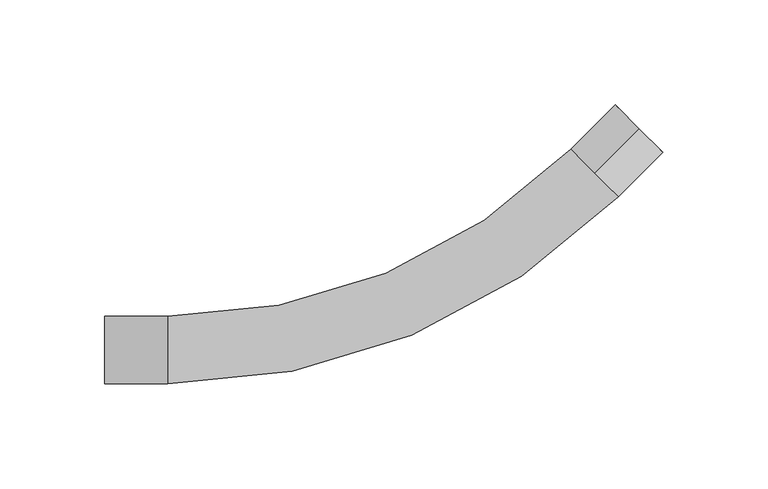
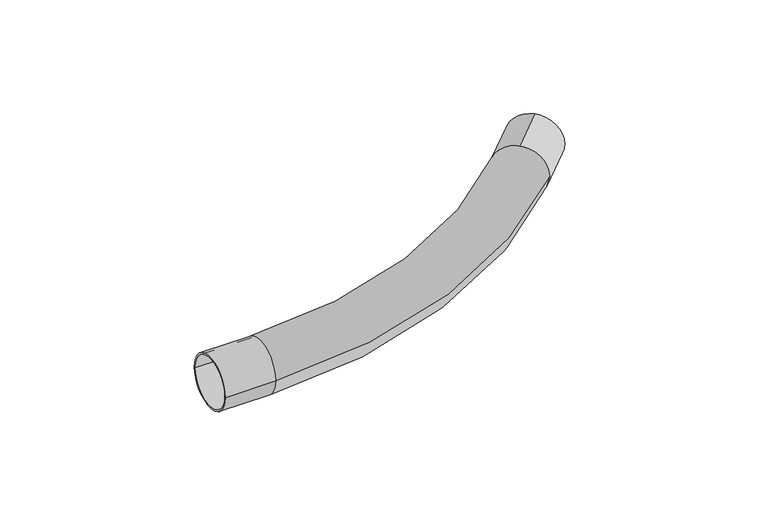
"""IFC4 building model written with IfcOpenShell, lengths in millimetres: cable carrier fitting geometry, КНС_МуфтаГибкаяТрубаТруба_IP65_DKC : Коробка."""

import ifcopenshell
import ifcopenshell.guid

model = None  # the IFC model being written
_history = None  # IfcOwnerHistory: only IFC2X3 demands one
_inside = {}  # id of a spatial element -> (the spatial element, [elements in it])
_under = {}  # id of a project, library or spatial element -> (it, [spatial elements below it])
_declared = {}  # id of a project -> (the project, [libraries it declares])
_typed = {}  # id of a type object -> (the type object, [elements of that type])
_made_of = {}  # id of a material, layer set ... -> (it, [elements and type objects made of it])


def new_model(schema):
    """Start an empty IFC model of exactly this schema.

    Asked for "IFC4X3", IfcOpenShell would pick the latest addendum, in which some entities
    have other attributes; the version numbers below select the first issue.
    IFC2X3 requires an IfcOwnerHistory on every rooted entity: one is made here for all.
    """
    global model, _history
    if schema == "IFC4X3":
        model = ifcopenshell.file(schema_version=(4, 3, 0, 0))
    else:
        model = ifcopenshell.file(schema=schema)
    _inside.clear()
    _under.clear()
    _declared.clear()
    _typed.clear()
    _made_of.clear()
    _history = None
    if model.schema == "IFC2X3":
        org = make("IfcOrganization", Name="unknown")
        user = make(
            "IfcPersonAndOrganization",
            ThePerson=make("IfcPerson", FamilyName="unknown"),
            TheOrganization=org,
        )
        app = make(
            "IfcApplication",
            ApplicationDeveloper=org,
            Version="unknown",
            ApplicationFullName="unknown",
            ApplicationIdentifier="unknown",
        )
        _history = make(
            "IfcOwnerHistory",
            OwningUser=user,
            OwningApplication=app,
            ChangeAction="ADDED",
            CreationDate=0,
        )
    return model


def make(cls, **values):
    """One entity of the class cls with the attributes given. An attribute that is None is left unset."""
    return model.create_entity(
        cls, **{name: value for name, value in values.items() if value is not None}
    )


def rooted(cls, **values):
    """An entity with a GlobalId (a new one), such as an element, a storey or a relation."""
    return make(cls, GlobalId=ifcopenshell.guid.new(), OwnerHistory=_history, **values)


def si_unit(unit_type, name, prefix=None):
    """IfcSIUnit, for example si_unit("LENGTHUNIT", "METRE", prefix="MILLI")."""
    return make("IfcSIUnit", UnitType=unit_type, Prefix=prefix, Name=name)


def assignment(units):
    """IfcUnitAssignment: the units of a project."""
    return None if units is None else make("IfcUnitAssignment", Units=units)


def point(xyz):
    """IfcCartesianPoint."""
    return None if xyz is None else make("IfcCartesianPoint", Coordinates=xyz)


def direction(xyz):
    """IfcDirection."""
    return None if xyz is None else make("IfcDirection", DirectionRatios=xyz)


def frame(location, z_axis=None, x_axis=None):
    """IfcAxis2Placement3D, a coordinate frame: its origin and axes. An axis left out is left unset."""
    return make(
        "IfcAxis2Placement3D",
        Location=point(location),
        Axis=direction(z_axis),
        RefDirection=direction(x_axis),
    )


def origin():
    """The frame at (0, 0, 0) with its axes left unset."""
    return frame((0.0, 0.0, 0.0))


def place(relative_to, where):
    """IfcLocalPlacement: puts the frame where relative to a parent placement (None: the world)."""
    return make(
        "IfcLocalPlacement", PlacementRelTo=relative_to, RelativePlacement=where
    )


def context(
    kind, dimensions, precision=None, world=None, true_north=None, identifier=None
):
    """IfcGeometricRepresentationContext, for example the 3D "Model" context."""
    return make(
        "IfcGeometricRepresentationContext",
        ContextIdentifier=identifier,
        ContextType=kind,
        CoordinateSpaceDimension=dimensions,
        Precision=precision,
        WorldCoordinateSystem=world,
        TrueNorth=true_north,
    )


def project(units=None, contexts=None):
    """IfcProject with its units and contexts."""
    return rooted(
        "IfcProject",
        Name="project",
        RepresentationContexts=contexts,
        UnitsInContext=assignment(units),
    )


def spatial(cls, under=None, at=None, **own):
    """A site, building, storey or space (cls), placed at a placement, below another one or the project."""
    s = rooted(cls, ObjectPlacement=at, **own)
    if under is not None:
        _under.setdefault(under.id(), (under, []))[1].append(s)
    return s


def polyline(points):
    """IfcPolyline through the points."""
    return make("IfcPolyline", Points=[point(p) for p in points])


def circle_curve(where, radius):
    """IfcCircle in the frame where."""
    return make("IfcCircle", Position=where, Radius=radius)


def ellipse_curve(where, semi_axis1, semi_axis2):
    """IfcEllipse in the frame where."""
    return make(
        "IfcEllipse", Position=where, SemiAxis1=semi_axis1, SemiAxis2=semi_axis2
    )


def trimmed(basis, trim1, trim2, sense, master):
    """IfcTrimmedCurve: the piece of a basis curve between two trims."""
    return make(
        "IfcTrimmedCurve",
        BasisCurve=basis,
        Trim1=trim1,
        Trim2=trim2,
        SenseAgreement=sense,
        MasterRepresentation=master,
    )


def shape(context_of_items, identifier, shape_type, items):
    """IfcShapeRepresentation: the items that make up one representation, for example the "Body"."""
    return make(
        "IfcShapeRepresentation",
        ContextOfItems=context_of_items,
        RepresentationIdentifier=identifier,
        RepresentationType=shape_type,
        Items=items,
    )


def source(mapping_origin, context_of_items, identifier, shape_type, items):
    """IfcRepresentationMap: a shape defined once, which mapped items show again and again."""
    return make(
        "IfcRepresentationMap",
        MappingOrigin=mapping_origin,
        MappedRepresentation=shape(context_of_items, identifier, shape_type, items),
    )


def transform(
    local_origin,
    x_axis=None,
    y_axis=None,
    z_axis=None,
    scale=None,
    scale2=None,
    scale3=None,
    uniform=True,
):
    """IfcCartesianTransformationOperator3D, or its non-uniform kind. x_axis, y_axis, z_axis: its Axis1, 2, 3."""
    if uniform:
        return make(
            "IfcCartesianTransformationOperator3D",
            Axis1=direction(x_axis),
            Axis2=direction(y_axis),
            LocalOrigin=point(local_origin),
            Scale=scale,
            Axis3=direction(z_axis),
        )
    return make(
        "IfcCartesianTransformationOperator3DnonUniform",
        Axis1=direction(x_axis),
        Axis2=direction(y_axis),
        LocalOrigin=point(local_origin),
        Scale=scale,
        Axis3=direction(z_axis),
        Scale2=scale2,
        Scale3=scale3,
    )


def mapped(mapping_source, mapping_target):
    """IfcMappedItem: shows the shape of a source again, moved by a transform."""
    return make(
        "IfcMappedItem", MappingSource=mapping_source, MappingTarget=mapping_target
    )


def made_of(thing, what):
    """Note that an element or type object is made of a material, layer set ...; save() writes the relation."""
    if what is not None:
        _made_of.setdefault(what.id(), (what, []))[1].append(thing)
    return thing


def element(
    cls,
    number,
    at=None,
    inside=None,
    cuts=None,
    type_object=None,
    material=None,
    context=None,
    identifier="Body",
    shape_type=None,
    held_by="IfcProductDefinitionShape",
    body=None,
    shapes=None,
    **own,
):
    """One element of the class cls, such as IfcWall. Its Tag is "e" and its number.

    at: its placement. inside: the storey or other place that contains it. cuts: it is an
    opening in that element (IfcRelVoidsElement). A single representation is given by context,
    identifier, shape_type and body (its items); several are given by shapes. held_by: the class
    of the entity that holds the representations. save() writes the other relations.
    """
    e = rooted(cls, Tag="e%d" % number, ObjectPlacement=at, **own)
    if body is not None:
        shapes = [shape(context, identifier, shape_type, body)]
    if shapes is not None:
        e.Representation = make(held_by, Representations=shapes)
    if inside is not None:
        _inside.setdefault(inside.id(), (inside, []))[1].append(e)
    if cuts is not None:
        rooted(
            "IfcRelVoidsElement", RelatingBuildingElement=cuts, RelatedOpeningElement=e
        )
    if type_object is not None:
        _typed.setdefault(type_object.id(), (type_object, []))[1].append(e)
    return made_of(e, material)


def aggregate(whole, parts):
    """IfcRelAggregates: a whole, such as a stair, and the parts it consists of."""
    return rooted("IfcRelAggregates", RelatingObject=whole, RelatedObjects=parts)


def save(model, path):
    """Write the relations noted so far, then the file.

    IfcRelAggregates (storeys below a building ...), IfcRelContainedInSpatialStructure (elements
    in a storey), IfcRelDefinesByType, IfcRelAssociatesMaterial and IfcRelDeclares: one each for
    every whole, place, type object, material and project.
    """
    for whole, parts in _under.values():
        aggregate(whole, parts)
    for where, things in _inside.values():
        rooted(
            "IfcRelContainedInSpatialStructure",
            RelatedElements=things,
            RelatingStructure=where,
        )
    for kind, things in _typed.values():
        rooted("IfcRelDefinesByType", RelatedObjects=things, RelatingType=kind)
    for what, things in _made_of.values():
        rooted("IfcRelAssociatesMaterial", RelatedObjects=things, RelatingMaterial=what)
    for by, libraries in _declared.values():
        rooted("IfcRelDeclares", RelatingContext=by, RelatedDefinitions=libraries)
    model.write(path)


def plane_surface(at):
    """IfcPlane: the flat surface through the origin of the frame at, square to its z axis."""
    return make("IfcPlane", Position=at)


def cylinder_surface(at, radius):
    """IfcCylindricalSurface: all points at the distance radius from the z axis of the frame at."""
    return make("IfcCylindricalSurface", Position=at, Radius=radius)


def revolved_surface(curve, axis_point, axis_direction):
    """IfcSurfaceOfRevolution: the curve turned about the line through axis_point along axis_direction."""
    return make(
        "IfcSurfaceOfRevolution",
        SweptCurve=make("IfcArbitraryOpenProfileDef", ProfileType="CURVE", Curve=curve),
        AxisPosition=make("IfcAxis1Placement", Location=point(axis_point), Axis=direction(axis_direction)),
    )


def advanced_brep(points, edges, surfaces, faces):
    """IfcAdvancedBrep: a solid bounded by faces that lie on surfaces and meet in shared edges.

    An edge is (start, end): straight between two places in points (the first is 0);
    or (start, end, curve); or (start, end, curve, False) where it runs against its curve.
    A face is (place in surfaces, loops), or (place, loops, False) where it looks against
    its surface's normal. A loop lists edges by number (the first is 1), with a minus sign
    where the edge is run from its end to its start. The first loop is the outer one.
    """
    corners = [point(p) for p in points]
    vertices = [make("IfcVertexPoint", VertexGeometry=c) for c in corners]
    made = []
    for start, end, *more in edges:
        made.append(
            make(
                "IfcEdgeCurve",
                EdgeStart=vertices[start],
                EdgeEnd=vertices[end],
                EdgeGeometry=more[0] if more else make("IfcPolyline", Points=[corners[start], corners[end]]),
                SameSense=more[1] if len(more) > 1 else True,
            )
        )
    hull = []
    for where, loops, *sense in faces:
        bounds = []
        for j, loop in enumerate(loops):
            ring = [make("IfcOrientedEdge", EdgeElement=made[abs(k) - 1], Orientation=k > 0) for k in loop]
            bounds.append(
                make(
                    "IfcFaceOuterBound" if j == 0 else "IfcFaceBound",
                    Bound=make("IfcEdgeLoop", EdgeList=ring),
                    Orientation=True,
                )
            )
        hull.append(make("IfcAdvancedFace", Bounds=bounds, FaceSurface=surfaces[where], SameSense=sense[0] if sense else True))
    return make("IfcAdvancedBrep", Outer=make("IfcClosedShell", CfsFaces=hull))


def cable_carrier_fitting_863328d7(model_context):
    return source(origin(), model_context, "Body", "AdvancedBrep", [
        advanced_brep(
        [(-149.1908378, -16.0, 0.0), (-149.1908378, 16.0, 0.0), (-149.1908378, -15.0, 0.0), (-149.1908378, 15.0, 0.0), (-119.1908378, -16.0, 0.0), (-119.1908378, 16.0, 0.0), (-119.1908378, -15.0, 0.0), (-119.1908378, 15.0, 0.0), (84.2806497, 84.2806497, 15.0), (84.2806497, 84.2806497, -15.0), (95.5943582, 72.9669412, 0.0), (84.2806497, 84.2806497, 16.0), (72.9669412, 95.5943582, 0.0), (84.2806497, 84.2806497, -16.0), (105.4938531, 105.4938531, -16.0), (105.4938531, 105.4938531, 16.0), (105.4938531, 105.4938531, -15.0), (105.4938531, 105.4938531, 15.0)],
        [
            (0, 1, circle_curve(frame((-149.1908378, 0.0, 0.0), z_axis=(-1.0, 0.0, 0.0), x_axis=(0.0, 1.0, 0.0)), 16.0)),
            (1, 0, circle_curve(frame((-149.1908378, 0.0, 0.0), z_axis=(-1.0, 0.0, 0.0), x_axis=(0.0, 1.0, 0.0)), 16.0)),
            (2, 3, circle_curve(frame((-149.1908378, 0.0, 0.0), z_axis=(1.0, 0.0, 0.0), x_axis=(0.0, 1.0, 0.0)), 15.0)),
            (3, 2, circle_curve(frame((-149.1908378, 0.0, 0.0), z_axis=(1.0, 0.0, 0.0), x_axis=(0.0, 1.0, 0.0)), 15.0)),
            (0, 4),
            (4, 5, circle_curve(frame((-119.1908378, 0.0, 0.0), z_axis=(-1.0, 0.0, 0.0), x_axis=(0.0, 1.0, 0.0)), 16.0)),
            (5, 1),
            (5, 4, circle_curve(frame((-119.1908378, 0.0, 0.0), z_axis=(-1.0, 0.0, 0.0), x_axis=(0.0, 1.0, 0.0)), 16.0)),
            (2, 6),
            (6, 7, circle_curve(frame((-119.1908378, 0.0, 0.0), z_axis=(1.0, 0.0, 0.0), x_axis=(0.0, 1.0, 0.0)), 15.0)),
            (7, 3),
            (7, 6, circle_curve(frame((-119.1908378, 0.0, 0.0), z_axis=(1.0, 0.0, 0.0), x_axis=(0.0, 1.0, 0.0)), 15.0)),
            (8, 9, circle_curve(frame((84.2806497, 84.2806497, 0.0), z_axis=(0.7071067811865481, 0.707106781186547, 0.0), x_axis=(0.0, 0.0, 1.0)), 15.0)),
            (9, 8, circle_curve(frame((84.2806497, 84.2806497, 0.0), z_axis=(0.7071067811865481, 0.707106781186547, 0.0), x_axis=(0.0, 0.0, 1.0)), 15.0)),
            (4, 10, circle_curve(frame((-119.1908378, 287.7521371, 0.0), z_axis=(0.0, 0.0, 1.0), x_axis=(0.7071067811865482, -0.7071067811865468, 0.0)), 303.7521371)),
            (10, 11, circle_curve(frame((84.2806497, 84.2806497, 0.0), z_axis=(-0.7071067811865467, -0.7071067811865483, 0.0), x_axis=(0.7071067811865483, -0.7071067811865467, 0.0)), 16.0)),
            (11, 12, circle_curve(frame((84.2806497, 84.2806497, 0.0), z_axis=(-0.7071067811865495, -0.7071067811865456, 0.0), x_axis=(0.7071067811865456, -0.7071067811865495, 0.0)), 16.0)),
            (12, 5, circle_curve(frame((-119.1908378, 287.7521371, 0.0), z_axis=(0.0, 0.0, -1.0), x_axis=(0.7071067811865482, -0.7071067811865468, 0.0)), 271.7521371)),
            (12, 13, circle_curve(frame((84.2806497, 84.2806497, 0.0), z_axis=(-0.7071067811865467, -0.7071067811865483, 0.0), x_axis=(0.7071067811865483, -0.7071067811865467, 0.0)), 16.0)),
            (13, 10, circle_curve(frame((84.2806497, 84.2806497, 0.0), z_axis=(-0.7071067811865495, -0.7071067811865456, 0.0), x_axis=(0.7071067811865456, -0.7071067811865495, 0.0)), 16.0)),
            (14, 15, circle_curve(frame((105.4938531, 105.4938531, 0.0), z_axis=(0.7071067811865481, 0.707106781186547, 0.0), x_axis=(0.0, 0.0, 1.0)), 16.0)),
            (15, 14, circle_curve(frame((105.4938531, 105.4938531, 0.0), z_axis=(0.7071067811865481, 0.707106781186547, 0.0), x_axis=(0.0, 0.0, 1.0)), 16.0)),
            (16, 17, circle_curve(frame((105.4938531, 105.4938531, 0.0), z_axis=(-0.7071067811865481, -0.707106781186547, 0.0), x_axis=(0.0, 0.0, 1.0)), 15.0)),
            (17, 16, circle_curve(frame((105.4938531, 105.4938531, 0.0), z_axis=(-0.7071067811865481, -0.707106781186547, 0.0), x_axis=(0.0, 0.0, 1.0)), 15.0)),
            (14, 13),
            (11, 15),
            (16, 9),
            (8, 17),
        ],
        [
            plane_surface(frame((-149.1908378, 0.0, 0.0), z_axis=(-1.0, 0.0, 0.0), x_axis=(0.0, 0.0, 1.0))),
            cylinder_surface(frame((-149.1908378, 0.0, 0.0), z_axis=(-1.0, 0.0, 0.0), x_axis=(0.0, 1.0, 0.0)), 16.0),
            revolved_surface(polyline([(-119.1908378, 15.0, 0.0), (-149.1908378, 15.0, 0.0)]), (-149.1908378, 0.0, 0.0), (1.0, 0.0, 0.0)),
            plane_surface(frame((84.2806497, 84.2806497, 0.0), z_axis=(0.7071067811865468, 0.7071067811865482, 0.0), x_axis=(0.0, 0.0, 1.0))),
            plane_surface(frame((-119.1908378, 0.0, 0.0), z_axis=(-1.0, 0.0, 0.0), x_axis=(0.0, 0.0, 1.0))),
            revolved_surface(trimmed(ellipse_curve(frame((84.2806497, 84.2806497, 0.0), z_axis=(0.7071067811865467, 0.7071067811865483, 0.0), x_axis=(0.7071067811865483, -0.7071067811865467, 0.0)), 16.0, 16.0), [point((72.9669412, 95.5943582, 0.0))], [point((95.5943582, 72.9669412, 0.0))], True, "CARTESIAN"), (-119.1908378, 287.7521371, 0.0), (0.0, 0.0, -1.0)),
            revolved_surface(trimmed(ellipse_curve(frame((84.2806497, 84.2806497, 0.0), z_axis=(0.7071067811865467, 0.7071067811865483, 0.0), x_axis=(0.7071067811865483, -0.7071067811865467, 0.0)), 16.0, 16.0), [point((95.5943582, 72.9669412, 0.0))], [point((72.9669412, 95.5943582, 0.0))], True, "CARTESIAN"), (-119.1908378, 287.7521371, 0.0), (0.0, 0.0, -1.0)),
            plane_surface(frame((105.4938531, 105.4938531, 16.0), z_axis=(0.7071067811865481, 0.7071067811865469, 0.0), x_axis=(0.7071067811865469, -0.7071067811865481, 0.0))),
            cylinder_surface(frame((84.2806497, 84.2806497, 0.0), z_axis=(0.7071067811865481, 0.707106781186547, 0.0), x_axis=(0.0, 0.0, 1.0)), 16.0),
            revolved_surface(polyline([(84.2806497, 84.2806497, 15.0), (105.49385310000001, 105.49385309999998, 15.0)]), (84.2806497, 84.2806497, 0.0), (-0.7071067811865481, -0.707106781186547, 0.0)),
        ],
        [
            (0, [[1, 2], [3, 4]]),
            (1, [[-1, 5, 6, 7]]),
            (1, [[-2, -7, 8, -5]]),
            (2, [[-3, 9, 10, 11]]),
            (2, [[-4, -11, 12, -9]]),
            (3, [[13, 14]]),
            (4, [[-10, -12]]),
            (5, [[15, 16, 17, 18, -6]]),
            (6, [[-15, -8, -18, 19, 20]]),
            (7, [[21, 22], [23, 24]]),
            (8, [[-21, 25, -19, -17, 26]]),
            (8, [[-22, -26, -16, -20, -25]]),
            (9, [[-23, 27, -13, 28]]),
            (9, [[-24, -28, -14, -27]]),
        ],
    ),
    ])


if __name__ == "__main__":
    model = new_model("IFC4")
    model_context = context("Model", 3, world=origin())
    ifc_project = project(units=[si_unit("LENGTHUNIT", "METRE", prefix="MILLI")], contexts=[model_context])
    site = spatial("IfcSite", under=ifc_project)
    building = spatial("IfcBuilding", under=site)
    placement = place(None, origin())
    cable_carrier_fitting_shape = cable_carrier_fitting_863328d7(model_context)
    element("IfcCableCarrierFitting", 1, ObjectType="КНС_МуфтаГибкаяТрубаТруба_IP65_DKC : Коробка", at=placement, inside=building, context=model_context, shape_type="MappedRepresentation", body=[
        mapped(cable_carrier_fitting_shape, transform((0.0, 0.0, 0.0), x_axis=(1.0, 0.0, 0.0), y_axis=(0.0, 1.0, 0.0), z_axis=(0.0, 0.0, 1.0))),
    ])
    save(model, "model.ifc")
